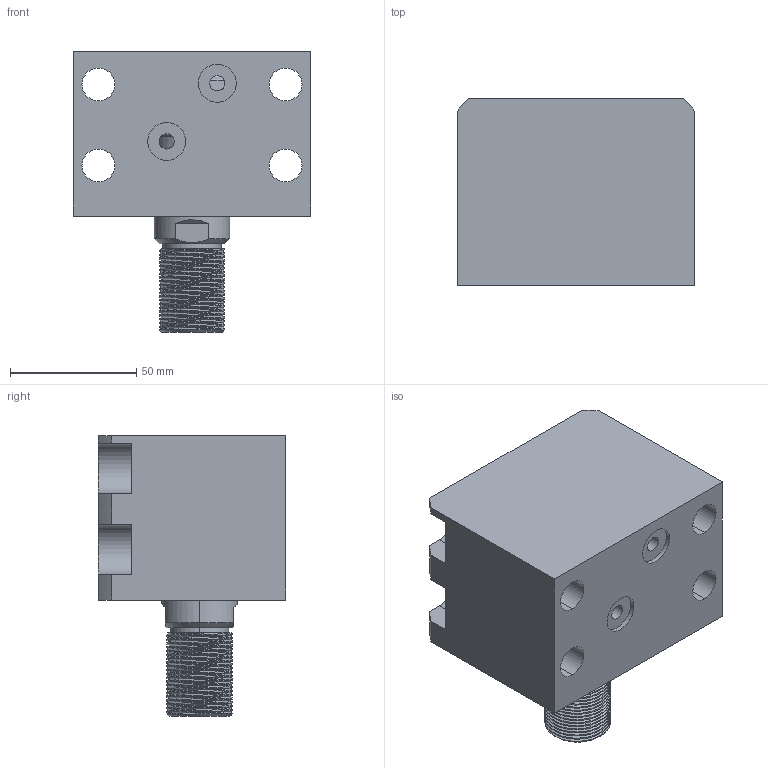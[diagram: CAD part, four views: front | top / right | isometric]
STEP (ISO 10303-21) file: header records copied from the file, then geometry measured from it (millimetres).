
FILE_DESCRIPTION (( 'STEP AP203' ), '1' );
FILE_NAME ('CHTB-LAM50-5W.STEP', '2018-05-23T09:20:15', ( '' ), ( '' ), 'SwSTEP 2.0', 'SolidWorks 2015', '' );
FILE_SCHEMA (( 'CONFIG_CONTROL_DESIGN' ));
Length unit declared in the file: millimetre
Products named in the file (4): 掛极LAM50-5W; 活塞杆LAM50-5W; CHTB-LAM50-5W; CHTM-SDMA50QG
Assembly tree (3 placements, depth 2):
  CHTB-LAM50-5W
    掛极LAM50-5W
    活塞杆LAM50-5W
    CHTM-SDMA50QG
Bounding box: 94 x 74 x 111 mm (x, y, z)
Volume: 413749.7 mm3; surface area: 88063.8 mm2
Topology: 3 solids, 3 shells, 222 faces, 618 edges, 414 vertices
Faces by surface type: cylinder 133, plane 44, bspline 16, torus 16, cone 13
Entity records: 14356 total; most frequent: CARTESIAN_POINT 8730, ORIENTED_EDGE 1228, DIRECTION 962, EDGE_CURVE 614, VERTEX_POINT 414, AXIS2_PLACEMENT_3D 377, EDGE_LOOP 252, ADVANCED_FACE 222
